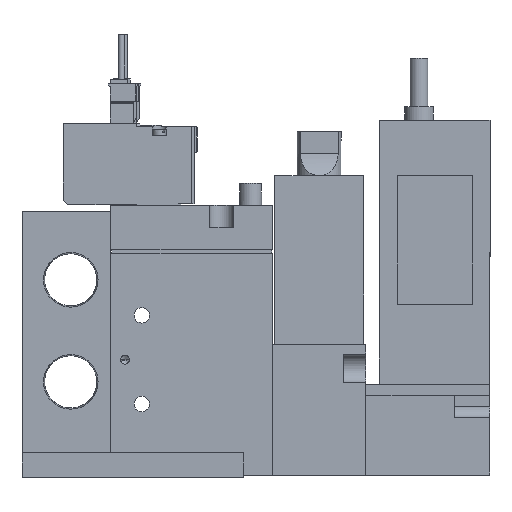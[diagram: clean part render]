
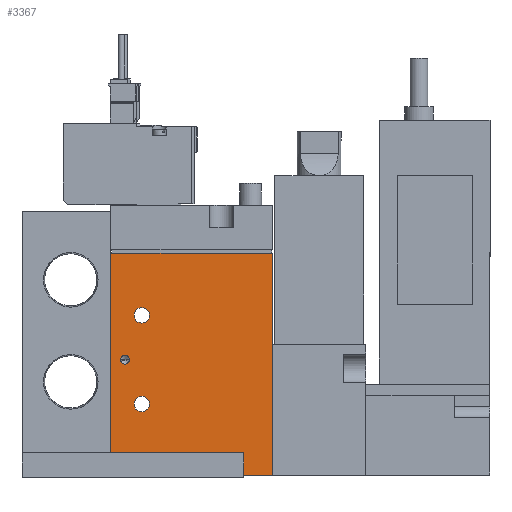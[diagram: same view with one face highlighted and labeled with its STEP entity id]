
A CAD part, left-side view. The second image highlights one B-rep face of the part: STEP entity #3367.
In plain terms, the highlighted planar face has unit normal (-1, 0, 0) as drawn and (1, 0, 0) by its records, which use the part's own axes.
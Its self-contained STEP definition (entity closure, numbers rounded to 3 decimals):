
#3367=ADVANCED_FACE('',(#5452,#5453,#5454,#5455),#5456,.F.);
#5452=FACE_BOUND('',#9184,.T.);
#5453=FACE_BOUND('',#9185,.T.);
#5454=FACE_BOUND('',#9186,.T.);
#5455=FACE_OUTER_BOUND('',#9187,.T.);
#5456=PLANE('',#9188);
#9184=EDGE_LOOP('',(#14392));
#9185=EDGE_LOOP('',(#14393));
#9186=EDGE_LOOP('',(#14394));
#9187=EDGE_LOOP('',(#14395,#14396,#14397,#14398));
#9188=AXIS2_PLACEMENT_3D('',#14399,#14400,#14401);
#14392=ORIENTED_EDGE('',*,*,#25475,.F.);
#14393=ORIENTED_EDGE('',*,*,#25476,.T.);
#14394=ORIENTED_EDGE('',*,*,#25477,.T.);
#14395=ORIENTED_EDGE('',*,*,#25478,.T.);
#14396=ORIENTED_EDGE('',*,*,#25479,.F.);
#14397=ORIENTED_EDGE('',*,*,#25480,.F.);
#14398=ORIENTED_EDGE('',*,*,#25481,.T.);
#14399=CARTESIAN_POINT('',(8.5,-19.444,50.0));
#14400=DIRECTION('',(-1.0,0.0,0.0));
#14401=DIRECTION('',(0.0,0.0,1.0));
#25475=EDGE_CURVE('',#29848,#29848,#29849,.T.);
#25476=EDGE_CURVE('',#29850,#29850,#29851,.T.);
#25477=EDGE_CURVE('',#29852,#29852,#29853,.T.);
#25478=EDGE_CURVE('',#29854,#29855,#29856,.T.);
#25479=EDGE_CURVE('',#29857,#29855,#29858,.T.);
#25480=EDGE_CURVE('',#29859,#29857,#29860,.T.);
#25481=EDGE_CURVE('',#29859,#29854,#29861,.T.);
#29848=VERTEX_POINT('',#37122);
#29849=CIRCLE('',#37123,1.0);
#29850=VERTEX_POINT('',#37124);
#29851=CIRCLE('',#37125,1.75);
#29852=VERTEX_POINT('',#37126);
#29853=CIRCLE('',#37127,1.75);
#29854=VERTEX_POINT('',#37128);
#29855=VERTEX_POINT('',#37129);
#29856=LINE('',#37130,#37131);
#29857=VERTEX_POINT('',#37132);
#29858=LINE('',#37133,#37134);
#29859=VERTEX_POINT('',#37135);
#29860=LINE('',#37136,#37137);
#29861=LINE('',#37138,#37139);
#37122=CARTESIAN_POINT('',(8.5,-17.244,26.0));
#37123=AXIS2_PLACEMENT_3D('',#46332,#46333,#46334);
#37124=CARTESIAN_POINT('',(8.5,-10.694,36.0));
#37125=AXIS2_PLACEMENT_3D('',#46335,#46336,#46337);
#37126=CARTESIAN_POINT('',(8.5,-10.694,16.0));
#37127=AXIS2_PLACEMENT_3D('',#46338,#46339,#46340);
#37128=CARTESIAN_POINT('',(8.5,-19.444,0.0));
#37129=CARTESIAN_POINT('',(8.5,17.056,0.0));
#37130=CARTESIAN_POINT('',(8.5,-19.444,0.0));
#37131=VECTOR('',#46341,1.0);
#37132=CARTESIAN_POINT('',(8.5,17.056,50.0));
#37133=CARTESIAN_POINT('',(8.5,17.056,50.0));
#37134=VECTOR('',#46342,1.0);
#37135=CARTESIAN_POINT('',(8.5,-19.444,50.0));
#37136=CARTESIAN_POINT('',(8.5,-19.444,50.0));
#37137=VECTOR('',#46343,1.0);
#37138=CARTESIAN_POINT('',(8.5,-19.444,50.0));
#37139=VECTOR('',#46344,1.0);
#46332=CARTESIAN_POINT('',(8.5,-16.244,26.0));
#46333=DIRECTION('',(1.0,0.,0.0));
#46334=DIRECTION('',(0.,-1.0,0.0));
#46335=CARTESIAN_POINT('',(8.5,-12.444,36.0));
#46336=DIRECTION('',(-1.0,0.0,0.0));
#46337=DIRECTION('',(0.0,1.0,0.0));
#46338=CARTESIAN_POINT('',(8.5,-12.444,16.0));
#46339=DIRECTION('',(-1.0,0.0,0.0));
#46340=DIRECTION('',(0.0,1.0,0.0));
#46341=DIRECTION('',(0.0,1.0,0.0));
#46342=DIRECTION('',(0.0,0.0,-1.0));
#46343=DIRECTION('',(0.0,1.0,0.0));
#46344=DIRECTION('',(0.0,0.0,-1.0));
